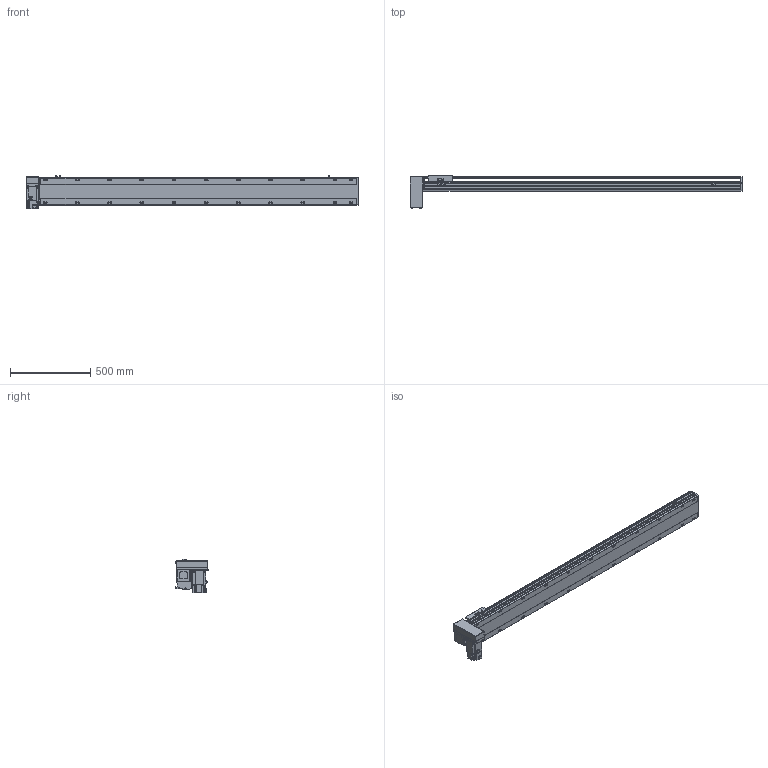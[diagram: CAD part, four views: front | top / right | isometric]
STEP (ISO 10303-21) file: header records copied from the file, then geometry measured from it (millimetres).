
FILE_DESCRIPTION(/* description */ ('STEP AP214'),/* implementation_level */ '2;1');
FILE_NAME(/* name */ 'PBS170-P40-S1700-RD-T75-C1-N(0)',/* time_stamp */ '2022-06-08T07:36:29+02:00',/* author */ ('License CC BY-ND 4.0'),/* organization */ ('CADENAS'),/* preprocessor_version */ 'ST-DEVELOPER v18.102',/* originating_system */ 'PARTsolutions',/* authorisation */ ' ');
FILE_SCHEMA (('AUTOMOTIVE_DESIGN {1 0 10303 214 3 1 1}'));
Length unit declared in the file: millimetre
Products named in the file (7): PBS170-P40-S1700-RD-T75-C1-N(0); PBS170_sensor; PBS170_plant; PBS170_sliser; T75-p1; PBS170T-RD_motors; PBS170-S1700()_body
Assembly tree (8 placements, depth 2):
  PBS170-P40-S1700-RD-T75-C1-N(0)
    PBS170_sensor  x3
    PBS170_plant
    PBS170_sliser
    T75-p1
    PBS170T-RD_motors
    PBS170-S1700()_body
Bounding box: 2063 x 201 x 205.3 mm (x, y, z)
Volume: 15977052.6 mm3; surface area: 2042360.4 mm2
Topology: 8 solids, 8 shells, 1130 faces, 2995 edges, 1952 vertices
Faces by surface type: plane 705, cylinder 363, cone 52, sphere 8, torus 2
Full cylindrical faces by diameter (mm): 3.242 x4, 4 x2, 4.4 x4, 4.5 x6, 4.917 x4, 6 x9, 6.647 x30, 7 x2, 7.5 x4, 8 x8, 8.5 x22, 10 x4, 10.5 x22, 11 x2, 30 x2, 40 x1, 70 x1
Entity records: 32492 total; most frequent: CARTESIAN_POINT 6049, DIRECTION 5510, ORIENTED_EDGE 5208, EDGE_CURVE 2604, AXIS2_PLACEMENT_3D 1927, VERTEX_POINT 1802, LINE 1656, VECTOR 1656
